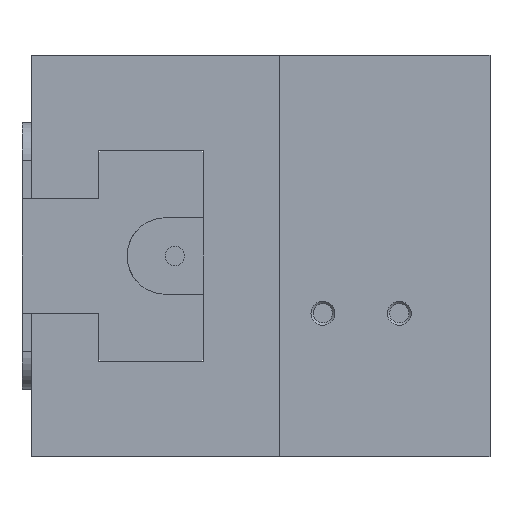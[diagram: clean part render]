
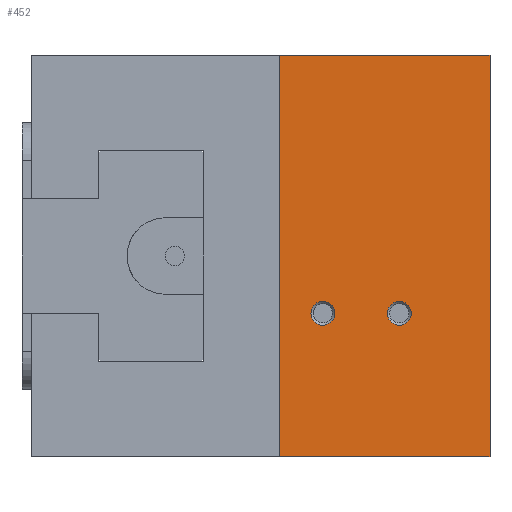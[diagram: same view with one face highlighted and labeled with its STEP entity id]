
A CAD part, left-side view. The second image highlights one B-rep face of the part: STEP entity #452.
In plain terms, the highlighted planar face has unit normal (-1, 0, 0).
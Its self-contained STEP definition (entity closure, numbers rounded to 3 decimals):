
#452 = ADVANCED_FACE( '', ( #1098, #1099, #1100 ), #1101, .F. );
#1098 = FACE_BOUND( '', #2062, .T. );
#1099 = FACE_OUTER_BOUND( '', #2063, .T. );
#1100 = FACE_BOUND( '', #2064, .T. );
#1101 = PLANE( '', #2065 );
#2062 = EDGE_LOOP( '', ( #3220 ) );
#2063 = EDGE_LOOP( '', ( #3221, #3222, #3223, #3224 ) );
#2064 = EDGE_LOOP( '', ( #3225 ) );
#2065 = AXIS2_PLACEMENT_3D( '', #3226, #3227, #3228 );
#3220 = ORIENTED_EDGE( '', *, *, #5045, .T. );
#3221 = ORIENTED_EDGE( '', *, *, #5046, .T. );
#3222 = ORIENTED_EDGE( '', *, *, #5007, .F. );
#3223 = ORIENTED_EDGE( '', *, *, #5047, .F. );
#3224 = ORIENTED_EDGE( '', *, *, #5048, .T. );
#3225 = ORIENTED_EDGE( '', *, *, #5049, .T. );
#3226 = CARTESIAN_POINT( '', ( -32., 22., 21. ) );
#3227 = DIRECTION( '', ( 1., 0., 0. ) );
#3228 = DIRECTION( '', ( 0., 0., -1. ) );
#5007 = EDGE_CURVE( '', #5892, #5887, #5894, .T. );
#5045 = EDGE_CURVE( '', #5949, #5949, #5950, .T. );
#5046 = EDGE_CURVE( '', #5951, #5887, #5952, .T. );
#5047 = EDGE_CURVE( '', #5953, #5892, #5954, .T. );
#5048 = EDGE_CURVE( '', #5953, #5951, #5955, .T. );
#5049 = EDGE_CURVE( '', #5956, #5956, #5957, .T. );
#5887 = VERTEX_POINT( '', #7287 );
#5892 = VERTEX_POINT( '', #7294 );
#5894 = LINE( '', #7297, #7298 );
#5949 = VERTEX_POINT( '', #7373 );
#5950 = CIRCLE( '', #7374, 1.25 );
#5951 = VERTEX_POINT( '', #7375 );
#5952 = LINE( '', #7376, #7377 );
#5953 = VERTEX_POINT( '', #7378 );
#5954 = LINE( '', #7379, #7380 );
#5955 = LINE( '', #7381, #7382 );
#5956 = VERTEX_POINT( '', #7383 );
#5957 = CIRCLE( '', #7384, 1.25 );
#7287 = CARTESIAN_POINT( '', ( -32., 0., -21. ) );
#7294 = CARTESIAN_POINT( '', ( -32., 0., 21. ) );
#7297 = CARTESIAN_POINT( '', ( -32., 0., 21. ) );
#7298 = VECTOR( '', #9040, 1000. );
#7373 = CARTESIAN_POINT( '', ( -32., 9.5, -7.25 ) );
#7374 = AXIS2_PLACEMENT_3D( '', #9079, #9080, #9081 );
#7375 = CARTESIAN_POINT( '', ( -32., 22., -21. ) );
#7376 = CARTESIAN_POINT( '', ( -32., 22., -21. ) );
#7377 = VECTOR( '', #9082, 1000. );
#7378 = CARTESIAN_POINT( '', ( -32., 22., 21. ) );
#7379 = CARTESIAN_POINT( '', ( -32., 22., 21. ) );
#7380 = VECTOR( '', #9083, 1000. );
#7381 = CARTESIAN_POINT( '', ( -32., 22., 21. ) );
#7382 = VECTOR( '', #9084, 1000. );
#7383 = CARTESIAN_POINT( '', ( -32., 17.5, -7.25 ) );
#7384 = AXIS2_PLACEMENT_3D( '', #9085, #9086, #9087 );
#9040 = DIRECTION( '', ( 0., 0., -1. ) );
#9079 = CARTESIAN_POINT( '', ( -32., 9.5, -6. ) );
#9080 = DIRECTION( '', ( 1., 0., 0. ) );
#9081 = DIRECTION( '', ( 0., 0., -1. ) );
#9082 = DIRECTION( '', ( 0., -1., 0. ) );
#9083 = DIRECTION( '', ( 0., -1., 0. ) );
#9084 = DIRECTION( '', ( 0., 0., -1. ) );
#9085 = CARTESIAN_POINT( '', ( -32., 17.5, -6. ) );
#9086 = DIRECTION( '', ( 1., 0., 0. ) );
#9087 = DIRECTION( '', ( 0., 0., -1. ) );
